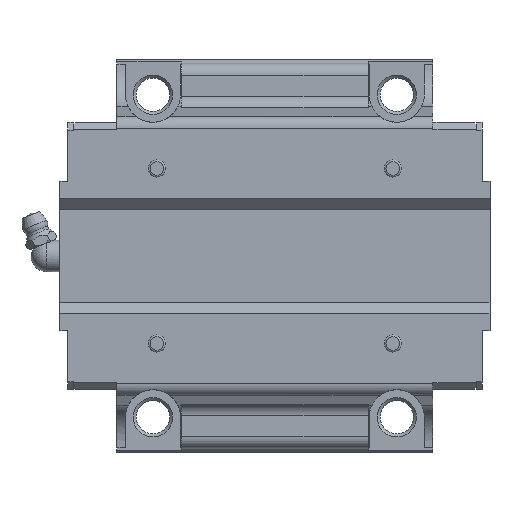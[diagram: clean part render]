
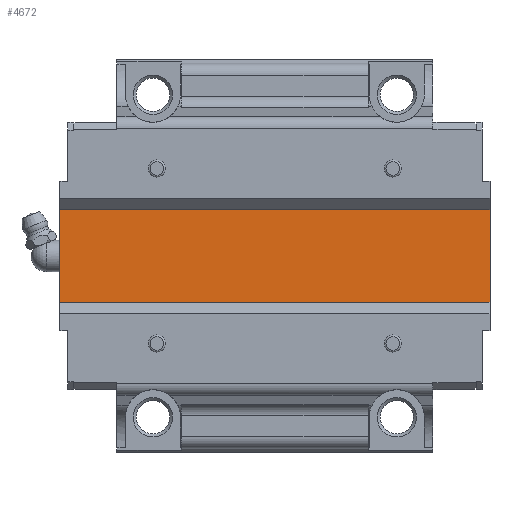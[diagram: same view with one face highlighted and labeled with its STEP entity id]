
A CAD part, front view. The second image highlights one B-rep face of the part: STEP entity #4672.
In plain terms, the highlighted planar face has unit normal (0, -1, 0).
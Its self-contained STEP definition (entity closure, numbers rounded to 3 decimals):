
#434=LINE('',#6881,#908);
#461=LINE('',#6941,#935);
#648=LINE('',#7572,#1122);
#649=LINE('',#7574,#1123);
#908=VECTOR('',#5486,1000.);
#935=VECTOR('',#5523,1000.);
#1122=VECTOR('',#6092,1000.);
#1123=VECTOR('',#6095,1000.);
#2087=ORIENTED_EDGE('',*,*,#2702,.F.);
#2088=ORIENTED_EDGE('',*,*,#3008,.F.);
#2089=ORIENTED_EDGE('',*,*,#2733,.T.);
#2090=ORIENTED_EDGE('',*,*,#3009,.T.);
#2702=EDGE_CURVE('',#3321,#3322,#434,.T.);
#2733=EDGE_CURVE('',#3350,#3349,#461,.T.);
#3008=EDGE_CURVE('',#3350,#3321,#648,.T.);
#3009=EDGE_CURVE('',#3349,#3322,#649,.T.);
#3321=VERTEX_POINT('',#6880);
#3322=VERTEX_POINT('',#6882);
#3349=VERTEX_POINT('',#6940);
#3350=VERTEX_POINT('',#6942);
#3832=EDGE_LOOP('',(#2087,#2088,#2089,#2090));
#4175=FACE_BOUND('',#3832,.T.);
#4446=PLANE('',#5064);
#4672=ADVANCED_FACE('',(#4175),#4446,.T.);
#5064=AXIS2_PLACEMENT_3D('',#7573,#6093,#6094);
#5486=DIRECTION('',(0.,0.,1.));
#5523=DIRECTION('',(0.,0.,1.));
#6092=DIRECTION('',(-1.,0.,0.));
#6093=DIRECTION('',(0.,-1.,0.));
#6094=DIRECTION('',(0.,0.,-1.));
#6095=DIRECTION('',(-1.,0.,0.));
#6880=CARTESIAN_POINT('',(-54.7,21.5,-13.11));
#6881=CARTESIAN_POINT('',(-54.7,21.5,-13.11));
#6882=CARTESIAN_POINT('',(-54.7,21.5,13.11));
#6940=CARTESIAN_POINT('',(54.7,21.5,13.11));
#6941=CARTESIAN_POINT('',(54.7,21.5,-13.11));
#6942=CARTESIAN_POINT('',(54.7,21.5,-13.11));
#7572=CARTESIAN_POINT('',(54.7,21.5,-13.11));
#7573=CARTESIAN_POINT('',(54.7,21.5,-13.11));
#7574=CARTESIAN_POINT('',(54.7,21.5,13.11));
